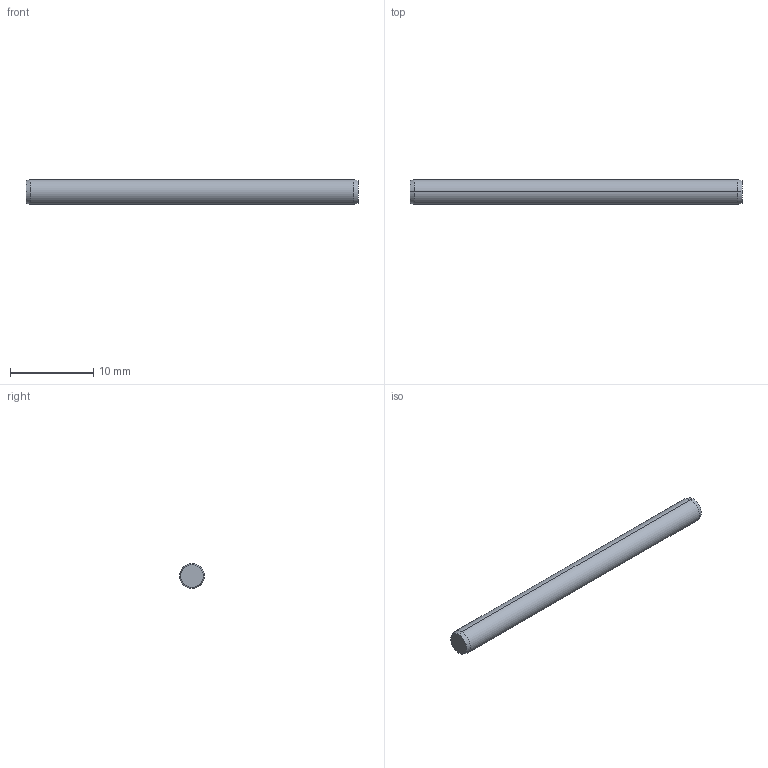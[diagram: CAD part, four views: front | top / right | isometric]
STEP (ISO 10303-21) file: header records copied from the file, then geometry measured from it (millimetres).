
FILE_DESCRIPTION (( 'STEP AP203' ), '1' );
FILE_NAME ('P1206.030-040.step', '2017-06-14T08:07:12', ( 'User' ), ( '' ), 'SwSTEP 2.0', 'SolidWorks 2009', '' );
FILE_SCHEMA (( 'CONFIG_CONTROL_DESIGN' ));
Length unit declared in the file: millimetre
Products named in the file (1): P1206.030-040
Bounding box: 40 x 3 x 3 mm (x, y, z)
Volume: 282.1 mm3; surface area: 388.6 mm2
Topology: 1 solids, 1 shells, 8 faces, 14 edges, 8 vertices
Faces by surface type: cone 4, cylinder 2, plane 2
Entity records: 271 total; most frequent: DIRECTION 40, CARTESIAN_POINT 31, ORIENTED_EDGE 28, AXIS2_PLACEMENT_3D 17, EDGE_CURVE 14, ADVANCED_FACE 8, EDGE_LOOP 8, VERTEX_POINT 8
